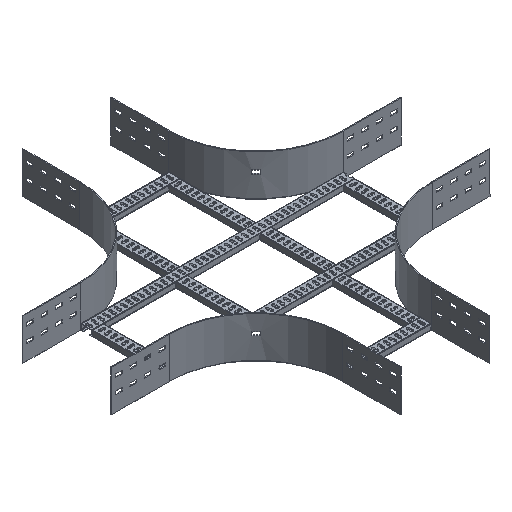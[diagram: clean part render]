
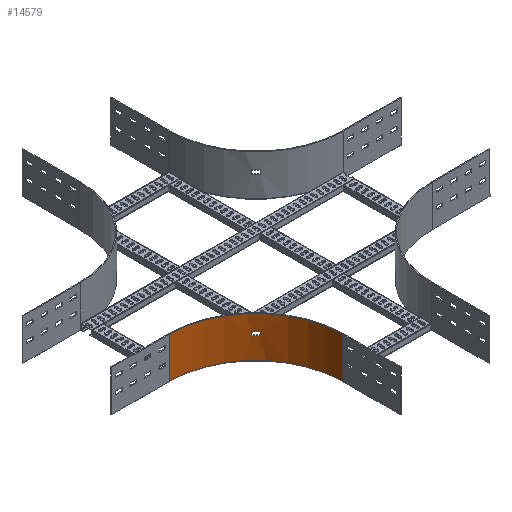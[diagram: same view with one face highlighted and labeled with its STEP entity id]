
A CAD part, isometric view. The second image highlights one B-rep face of the part: STEP entity #14579.
In plain terms, the highlighted cylindrical face has radius 300 mm (diameter 600 mm), a partial arc.
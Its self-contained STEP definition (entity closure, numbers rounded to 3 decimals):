
#403=FACE_BOUND('',#2109,.T.);
#687=CYLINDRICAL_SURFACE('',#15355,300.);
#732=CIRCLE('',#15347,300.);
#737=CIRCLE('',#15354,300.);
#738=CIRCLE('',#15356,300.);
#739=CIRCLE('',#15357,300.);
#1359=FACE_OUTER_BOUND('',#2108,.T.);
#2108=EDGE_LOOP('',(#9872,#9873,#9874,#9875));
#2109=EDGE_LOOP('',(#9876,#9877,#9878,#9879));
#3139=LINE('',#20323,#4679);
#3141=LINE('',#20329,#4681);
#3146=LINE('',#20353,#4686);
#3147=LINE('',#20356,#4687);
#4679=VECTOR('',#16519,304.8);
#4681=VECTOR('',#16523,304.8);
#4686=VECTOR('',#16550,304.8);
#4687=VECTOR('',#16553,304.8);
#6216=VERTEX_POINT('',#20316);
#6219=VERTEX_POINT('',#20321);
#6221=VERTEX_POINT('',#20326);
#6222=VERTEX_POINT('',#20328);
#6228=VERTEX_POINT('',#20349);
#6229=VERTEX_POINT('',#20350);
#6230=VERTEX_POINT('',#20352);
#6231=VERTEX_POINT('',#20354);
#7667=EDGE_CURVE('',#6219,#6216,#3139,.T.);
#7669=EDGE_CURVE('',#6221,#6222,#3141,.T.);
#7672=EDGE_CURVE('',#6216,#6221,#732,.T.);
#7679=EDGE_CURVE('',#6222,#6219,#737,.T.);
#7680=EDGE_CURVE('',#6228,#6229,#738,.T.);
#7681=EDGE_CURVE('',#6229,#6230,#3146,.T.);
#7682=EDGE_CURVE('',#6230,#6231,#739,.T.);
#7683=EDGE_CURVE('',#6231,#6228,#3147,.T.);
#9872=ORIENTED_EDGE('',*,*,#7667,.F.);
#9873=ORIENTED_EDGE('',*,*,#7679,.F.);
#9874=ORIENTED_EDGE('',*,*,#7669,.F.);
#9875=ORIENTED_EDGE('',*,*,#7672,.F.);
#9876=ORIENTED_EDGE('',*,*,#7680,.T.);
#9877=ORIENTED_EDGE('',*,*,#7681,.T.);
#9878=ORIENTED_EDGE('',*,*,#7682,.T.);
#9879=ORIENTED_EDGE('',*,*,#7683,.T.);
#14579=ADVANCED_FACE('',(#1359,#403),#687,.F.);
#15347=AXIS2_PLACEMENT_3D('',#20334,#16528,#16529);
#15354=AXIS2_PLACEMENT_3D('',#20347,#16544,#16545);
#15355=AXIS2_PLACEMENT_3D('',#20348,#16546,#16547);
#15356=AXIS2_PLACEMENT_3D('',#20351,#16548,#16549);
#15357=AXIS2_PLACEMENT_3D('',#20355,#16551,#16552);
#16519=DIRECTION('',(0.,0.,1.));
#16523=DIRECTION('',(0.,0.,-1.));
#16528=DIRECTION('center_axis',(0.,0.,-1.));
#16529=DIRECTION('ref_axis',(0.,1.,0.));
#16544=DIRECTION('center_axis',(0.,0.,1.));
#16545=DIRECTION('ref_axis',(0.,1.,0.));
#16546=DIRECTION('center_axis',(0.,0.,-1.));
#16547=DIRECTION('ref_axis',(0.,1.,0.));
#16548=DIRECTION('center_axis',(0.,0.,-1.));
#16549=DIRECTION('ref_axis',(0.,1.,0.));
#16550=DIRECTION('',(0.,0.,-1.));
#16551=DIRECTION('center_axis',(0.,0.,1.));
#16552=DIRECTION('ref_axis',(0.,1.,0.));
#16553=DIRECTION('',(0.,0.,1.));
#20316=CARTESIAN_POINT('',(-455.5,-155.5,71.));
#20321=CARTESIAN_POINT('',(-455.5,-155.5,-71.));
#20323=CARTESIAN_POINT('',(-455.5,-155.5,-71.));
#20326=CARTESIAN_POINT('',(-155.5,-455.5,71.));
#20328=CARTESIAN_POINT('',(-155.5,-455.5,-71.));
#20329=CARTESIAN_POINT('',(-155.5,-455.5,71.));
#20334=CARTESIAN_POINT('Origin',(-455.5,-455.5,71.));
#20347=CARTESIAN_POINT('Origin',(-455.5,-455.5,-71.));
#20348=CARTESIAN_POINT('Origin',(-455.5,-455.5,0.));
#20349=CARTESIAN_POINT('',(-251.26,-235.759,15.5));
#20350=CARTESIAN_POINT('',(-235.706,-251.318,15.5));
#20351=CARTESIAN_POINT('Origin',(-455.5,-455.5,15.5));
#20352=CARTESIAN_POINT('',(-235.706,-251.318,4.5));
#20353=CARTESIAN_POINT('',(-235.706,-251.318,15.5));
#20354=CARTESIAN_POINT('',(-251.26,-235.759,4.5));
#20355=CARTESIAN_POINT('Origin',(-455.5,-455.5,4.5));
#20356=CARTESIAN_POINT('',(-251.26,-235.759,4.5));
